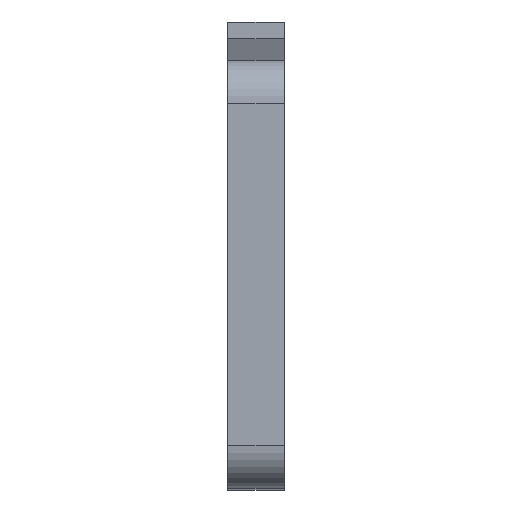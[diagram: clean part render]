
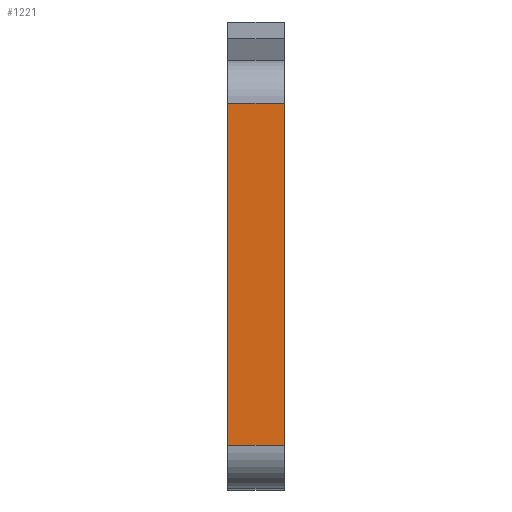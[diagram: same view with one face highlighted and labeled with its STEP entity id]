
A CAD part, top view. The second image highlights one B-rep face of the part: STEP entity #1221.
In plain terms, the highlighted planar face has unit normal (0, 0, 1).
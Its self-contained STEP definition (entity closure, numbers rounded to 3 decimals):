
#136=FACE_OUTER_BOUND('',#198,.T.);
#198=EDGE_LOOP('',(#985,#986,#987,#988));
#326=LINE('',#2016,#461);
#327=LINE('',#2019,#462);
#328=LINE('',#2021,#463);
#329=LINE('',#2022,#464);
#461=VECTOR('',#1654,10.);
#462=VECTOR('',#1657,10.);
#463=VECTOR('',#1658,10.);
#464=VECTOR('',#1659,10.);
#582=VERTEX_POINT('',#2012);
#583=VERTEX_POINT('',#2014);
#584=VERTEX_POINT('',#2018);
#585=VERTEX_POINT('',#2020);
#752=EDGE_CURVE('',#582,#583,#326,.T.);
#753=EDGE_CURVE('',#582,#584,#327,.T.);
#754=EDGE_CURVE('',#585,#583,#328,.T.);
#755=EDGE_CURVE('',#584,#585,#329,.T.);
#985=ORIENTED_EDGE('',*,*,#753,.F.);
#986=ORIENTED_EDGE('',*,*,#752,.T.);
#987=ORIENTED_EDGE('',*,*,#754,.F.);
#988=ORIENTED_EDGE('',*,*,#755,.F.);
#1161=PLANE('',#1336);
#1221=ADVANCED_FACE('',(#136),#1161,.T.);
#1336=AXIS2_PLACEMENT_3D('',#2017,#1655,#1656);
#1654=DIRECTION('',(1.,0.,0.));
#1655=DIRECTION('center_axis',(0.,0.,1.));
#1656=DIRECTION('ref_axis',(0.,-1.,0.));
#1657=DIRECTION('',(0.,1.,0.));
#1658=DIRECTION('',(0.,-1.,0.));
#1659=DIRECTION('',(1.,0.,0.));
#2012=CARTESIAN_POINT('',(0.,-60.772,160.7));
#2014=CARTESIAN_POINT('',(10.,-60.772,160.7));
#2016=CARTESIAN_POINT('',(0.,-60.772,160.7));
#2017=CARTESIAN_POINT('Origin',(0.,0.,160.7));
#2018=CARTESIAN_POINT('',(0.,0.,160.7));
#2019=CARTESIAN_POINT('',(0.,-60.772,160.7));
#2020=CARTESIAN_POINT('',(10.,0.,160.7));
#2021=CARTESIAN_POINT('',(10.,-60.772,160.7));
#2022=CARTESIAN_POINT('',(0.,0.,160.7));
